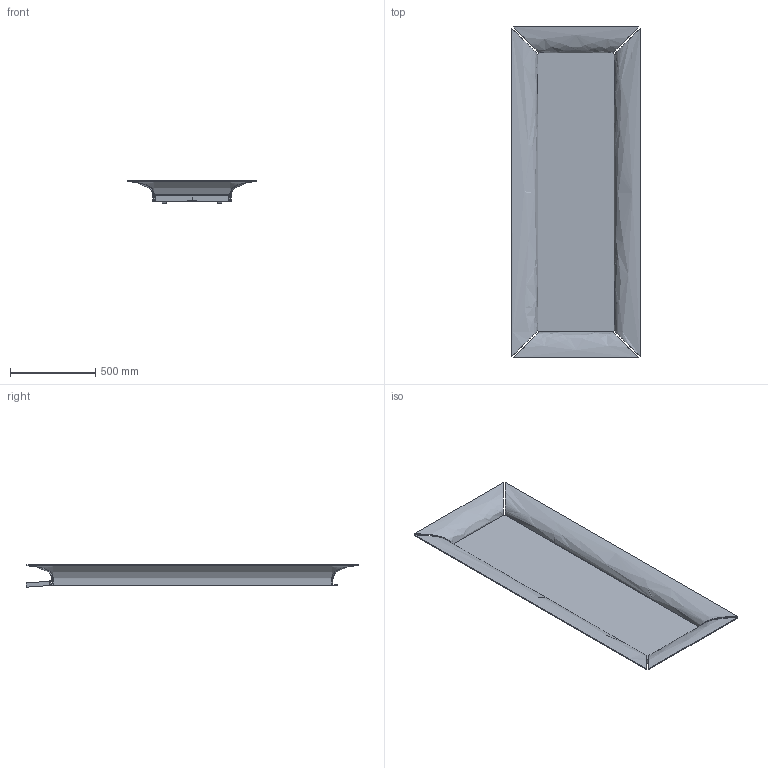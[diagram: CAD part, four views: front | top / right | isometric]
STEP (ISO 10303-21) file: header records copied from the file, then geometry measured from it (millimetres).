
FILE_DESCRIPTION(/* description */ (''),/* implementation_level */ '2;1');
FILE_NAME(/* name */ 'Caadre - 76x195 con piedi',/* time_stamp */ '2010-11-02T14:04:32+01:00',/* author */ (''),/* organization */ (''),/* preprocessor_version */ 'ST-DEVELOPER v10',/* originating_system */ '',/* authorisation */ '');
FILE_SCHEMA (('CONFIG_CONTROL_DESIGN'));
Length unit declared in the file: centimetre
Products named in the file (1): 1
Bounding box: 756 x 1951.66 x 131.13 mm (x, y, z)
Volume: 14730036.4 mm3; surface area: 4187105.5 mm2
Topology: 11 solids, 11 shells, 102 faces, 234 edges, 150 vertices
Faces by surface type: bspline 52, plane 50
Entity records: 4496 total; most frequent: CARTESIAN_POINT 2786, ORIENTED_EDGE 468, EDGE_CURVE 234, B_SPLINE_CURVE_WITH_KNOTS 234, VERTEX_POINT 150, EDGE_LOOP 104, ADVANCED_FACE 102, FACE_OUTER_BOUND 102
